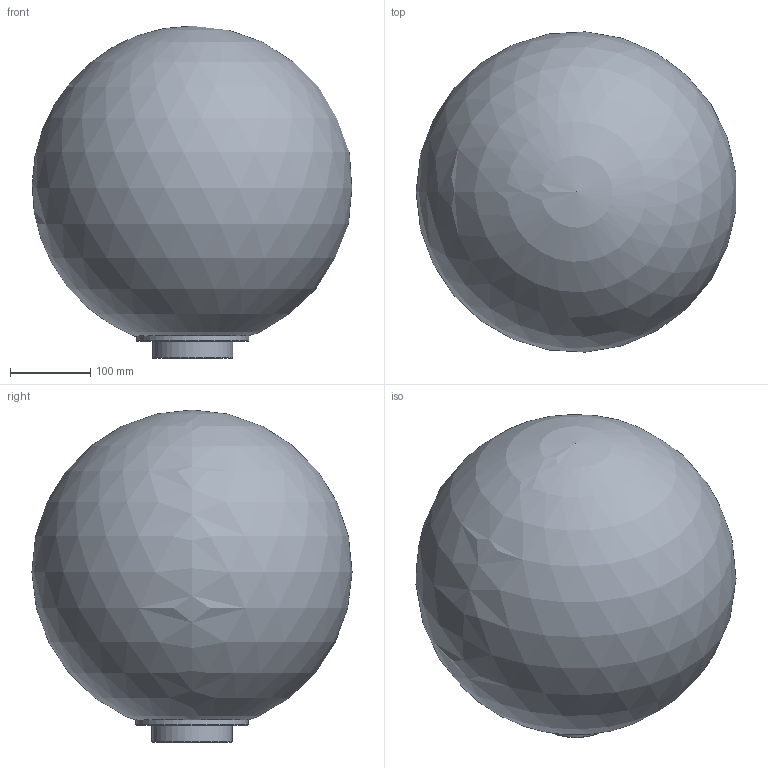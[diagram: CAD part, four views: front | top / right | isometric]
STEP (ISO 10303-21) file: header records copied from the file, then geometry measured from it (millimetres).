
FILE_DESCRIPTION(/* description */ (''),/* implementation_level */ '2;1');
FILE_NAME(/* name */ 'C:/Users/LukasGröber/GMS Cloud/Groeber Mannheim Lichtwerke - Dokumente/Marketing/Produkte/3D Daten/Kugel Sahara Stationär/Kugel Sahara 40 Stationär.step',/* time_stamp */ '2022-07-08T11:09:36+02:00',/* author */ (''),/* organization */ (''),/* preprocessor_version */ 'ST-DEVELOPER v19',/* originating_system */ 'Autodesk Translation Framework v11.7.0.108',/* authorisation */ '');
FILE_SCHEMA (('AUTOMOTIVE_DESIGN { 1 0 10303 214 3 1 1 }'));
Length unit declared in the file: millimetre
Products named in the file (3): Kugel Sahara 40 Stationär; Ring Stationär 30-60 (Modell); Kugel Sahara 400 Öffnung 80
Assembly tree (2 placements, depth 2):
  Kugel Sahara 40 Stationär
    Ring Stationär 30-60 (Modell)
    Kugel Sahara 400 Öffnung 80
Bounding box: 398.61 x 399.29 x 413.96 mm (x, y, z)
Volume: 2485318.2 mm3; surface area: 1004958.3 mm2
Topology: 2 solids, 2 shells, 15 faces, 31 edges, 19 vertices
Faces by surface type: cylinder 4, cone 3, plane 3, torus 3, sphere 2
Full cylindrical faces by diameter (mm): 80 x1, 94 x1, 100 x1, 140 x1
Entity records: 500 total; most frequent: DIRECTION 91, CARTESIAN_POINT 68, ORIENTED_EDGE 58, AXIS2_PLACEMENT_3D 42, EDGE_CURVE 29, CIRCLE 22, VERTEX_POINT 19, EDGE_LOOP 18
